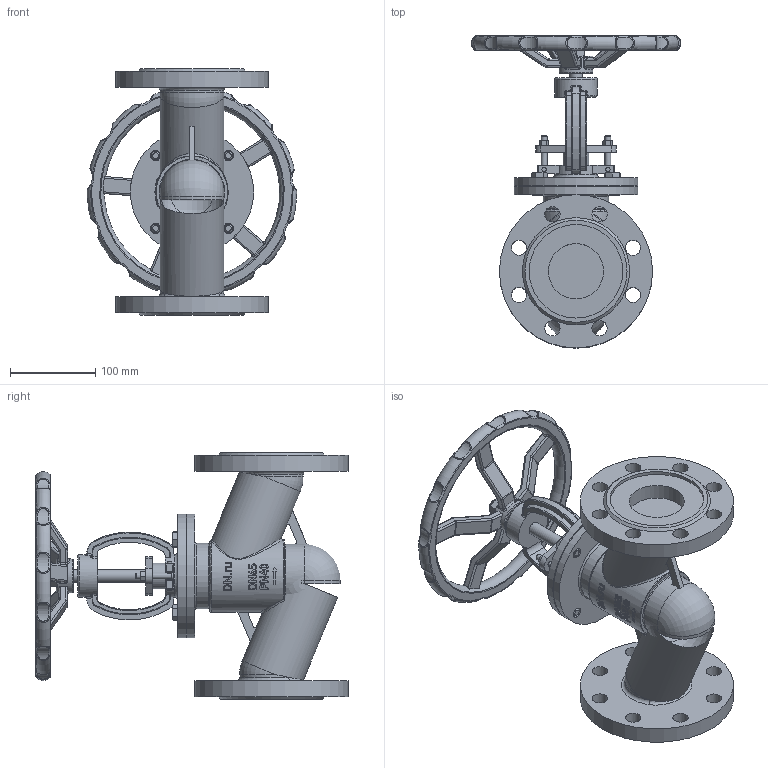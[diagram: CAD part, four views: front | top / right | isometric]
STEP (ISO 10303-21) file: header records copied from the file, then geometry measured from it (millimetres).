
FILE_DESCRIPTION(('STEP AP203'), '1');
FILE_NAME('VSO3131M-F-S 孰囡囗 玎镱痦 DN.ru 捏65 畜40', '2026-04-14T17:43:14', ('R2D2'), (''), 'C3D Converter', 'C3D Toolkit', '');
FILE_SCHEMA(('CONFIG_CONTROL_DESIGN'));
Length unit declared in the file: millimetre
Products named in the file (1): VSO3131M-F-S
Bounding box: 246.29 x 366.92 x 290 mm (x, y, z)
Volume: 3398357.8 mm3; surface area: 400147.7 mm2
Topology: 1 solids, 1 shells, 1053 faces, 2521 edges, 1508 vertices
Faces by surface type: plane 299, cylinder 249, torus 155, extrusion 128, bspline 79, sphere 72, cone 71
Full cylindrical faces by diameter (mm): 5 x8, 7 x4, 8 x2, 10 x4, 12 x4, 15 x3, 16 x4, 18 x17, 30 x1, 40 x1, 50 x2, 65 x2, 75 x3, 77 x1, 85 x1, 110 x2, 145 x2, 180 x2
Entity records: 68715 total; most frequent: CARTESIAN_POINT 37280, ORIENTED_EDGE 4816, DIRECTION 4425, EDGE_CURVE 2408, AXIS2_PLACEMENT_3D 1767, VERTEX_POINT 1504, EDGE_LOOP 1260, FACE_BOUND 1113
